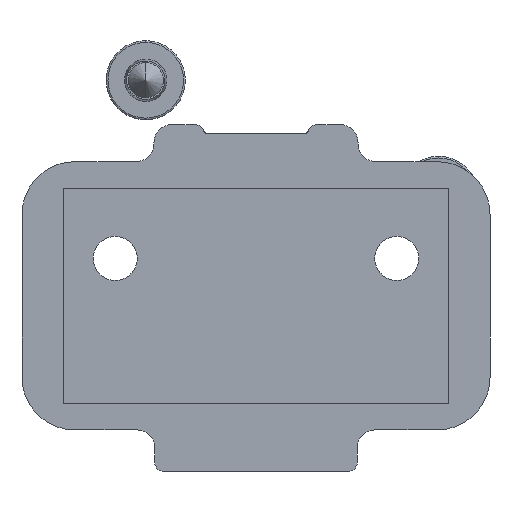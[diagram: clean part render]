
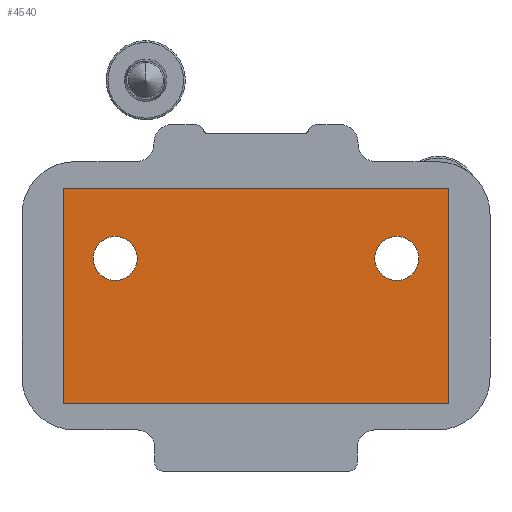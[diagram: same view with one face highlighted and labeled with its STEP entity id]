
A CAD part, front view. The second image highlights one B-rep face of the part: STEP entity #4540.
In plain terms, the highlighted planar face has unit normal (0, -1, 0).
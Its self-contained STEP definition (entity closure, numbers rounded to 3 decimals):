
#23 = EDGE_CURVE ( 'NONE', #2934, #252, #3937, .T. ) ;
#125 = AXIS2_PLACEMENT_3D ( 'NONE', #6518, #3868, #6409 ) ;
#166 = VERTEX_POINT ( 'NONE', #3570 ) ;
#212 = CARTESIAN_POINT ( 'NONE',  ( -21.9, -0.15, 12.501 ) ) ;
#226 = VERTEX_POINT ( 'NONE', #5920 ) ;
#252 = VERTEX_POINT ( 'NONE', #6392 ) ;
#309 = DIRECTION ( 'NONE',  ( -1., 0., 0. ) ) ;
#515 = EDGE_CURVE ( 'NONE', #5916, #4390, #1299, .T. ) ;
#644 = ORIENTED_EDGE ( 'NONE', *, *, #5589, .F. ) ;
#667 = LINE ( 'NONE', #2761, #1884 ) ;
#848 = CARTESIAN_POINT ( 'NONE',  ( 22.5, -0.15, 12.501 ) ) ;
#886 = DIRECTION ( 'NONE',  ( 0., -1., 0. ) ) ;
#916 = PLANE ( 'NONE',  #125 ) ;
#1152 = DIRECTION ( 'NONE',  ( 0., -1., 0. ) ) ;
#1299 = LINE ( 'NONE', #2316, #3008 ) ;
#1399 = EDGE_LOOP ( 'NONE', ( #2393, #5750 ) ) ;
#1884 = VECTOR ( 'NONE', #6208, 1000. ) ;
#2316 = CARTESIAN_POINT ( 'NONE',  ( -21.9, -0.15, 14.571 ) ) ;
#2334 = CIRCLE ( 'NONE', #2577, 2.5 ) ;
#2393 = ORIENTED_EDGE ( 'NONE', *, *, #4006, .F. ) ;
#2416 = CARTESIAN_POINT ( 'NONE',  ( -21.9, -0.15, 37.001 ) ) ;
#2577 = AXIS2_PLACEMENT_3D ( 'NONE', #4960, #7201, #6065 ) ;
#2634 = EDGE_CURVE ( 'NONE', #2946, #226, #2334, .T. ) ;
#2733 = FACE_BOUND ( 'NONE', #4919, .T. ) ;
#2761 = CARTESIAN_POINT ( 'NONE',  ( 18.9, -0.15, 37.001 ) ) ;
#2786 = CARTESIAN_POINT ( 'NONE',  ( -18.5, -0.15, 29. ) ) ;
#2804 = EDGE_LOOP ( 'NONE', ( #4425, #4800, #3040, #644 ) ) ;
#2806 = CIRCLE ( 'NONE', #5021, 2.5 ) ;
#2934 = VERTEX_POINT ( 'NONE', #6015 ) ;
#2946 = VERTEX_POINT ( 'NONE', #3300 ) ;
#3008 = VECTOR ( 'NONE', #6788, 1000. ) ;
#3040 = ORIENTED_EDGE ( 'NONE', *, *, #515, .F. ) ;
#3046 = AXIS2_PLACEMENT_3D ( 'NONE', #7021, #5289, #309 ) ;
#3132 = ORIENTED_EDGE ( 'NONE', *, *, #6785, .F. ) ;
#3276 = VECTOR ( 'NONE', #3587, 1000. ) ;
#3300 = CARTESIAN_POINT ( 'NONE',  ( 18.5, -0.15, 29. ) ) ;
#3353 = CARTESIAN_POINT ( 'NONE',  ( 21.9, -0.15, 46.271 ) ) ;
#3570 = CARTESIAN_POINT ( 'NONE',  ( -13.5, -0.15, 29. ) ) ;
#3587 = DIRECTION ( 'NONE',  ( -1., 0., 0. ) ) ;
#3868 = DIRECTION ( 'NONE',  ( 0., 1., 0. ) ) ;
#3937 = LINE ( 'NONE', #3353, #6046 ) ;
#4006 = EDGE_CURVE ( 'NONE', #6558, #166, #2806, .T. ) ;
#4172 = ORIENTED_EDGE ( 'NONE', *, *, #2634, .F. ) ;
#4216 = FACE_OUTER_BOUND ( 'NONE', #2804, .T. ) ;
#4390 = VERTEX_POINT ( 'NONE', #2416 ) ;
#4425 = ORIENTED_EDGE ( 'NONE', *, *, #23, .T. ) ;
#4448 = CARTESIAN_POINT ( 'NONE',  ( -16., -0.15, 29. ) ) ;
#4540 = ADVANCED_FACE ( 'NONE', ( #4216, #7240, #2733 ), #916, .F. ) ;
#4730 = EDGE_CURVE ( 'NONE', #166, #6558, #6792, .T. ) ;
#4800 = ORIENTED_EDGE ( 'NONE', *, *, #5034, .T. ) ;
#4850 = CIRCLE ( 'NONE', #6721, 2.5 ) ;
#4919 = EDGE_LOOP ( 'NONE', ( #4172, #3132 ) ) ;
#4929 = DIRECTION ( 'NONE',  ( 0., 0., 1. ) ) ;
#4960 = CARTESIAN_POINT ( 'NONE',  ( 16., -0.15, 29. ) ) ;
#5021 = AXIS2_PLACEMENT_3D ( 'NONE', #4448, #1152, #5652 ) ;
#5034 = EDGE_CURVE ( 'NONE', #252, #4390, #667, .T. ) ;
#5289 = DIRECTION ( 'NONE',  ( 0., -1., 0. ) ) ;
#5420 = DIRECTION ( 'NONE',  ( -1., 0., 0. ) ) ;
#5589 = EDGE_CURVE ( 'NONE', #2934, #5916, #5757, .T. ) ;
#5652 = DIRECTION ( 'NONE',  ( -1., 0., 0. ) ) ;
#5750 = ORIENTED_EDGE ( 'NONE', *, *, #4730, .F. ) ;
#5757 = LINE ( 'NONE', #848, #3276 ) ;
#5906 = CARTESIAN_POINT ( 'NONE',  ( 16., -0.15, 29. ) ) ;
#5916 = VERTEX_POINT ( 'NONE', #212 ) ;
#5920 = CARTESIAN_POINT ( 'NONE',  ( 13.5, -0.15, 29. ) ) ;
#6015 = CARTESIAN_POINT ( 'NONE',  ( 21.9, -0.15, 12.501 ) ) ;
#6046 = VECTOR ( 'NONE', #4929, 1000. ) ;
#6065 = DIRECTION ( 'NONE',  ( -1., 0., 0. ) ) ;
#6208 = DIRECTION ( 'NONE',  ( -1., 0., 0. ) ) ;
#6392 = CARTESIAN_POINT ( 'NONE',  ( 21.9, -0.15, 37.001 ) ) ;
#6409 = DIRECTION ( 'NONE',  ( 0., 0., -1. ) ) ;
#6518 = CARTESIAN_POINT ( 'NONE',  ( -15.762, -0.15, 20.238 ) ) ;
#6558 = VERTEX_POINT ( 'NONE', #2786 ) ;
#6721 = AXIS2_PLACEMENT_3D ( 'NONE', #5906, #886, #5420 ) ;
#6785 = EDGE_CURVE ( 'NONE', #226, #2946, #4850, .T. ) ;
#6788 = DIRECTION ( 'NONE',  ( 0., 0., 1. ) ) ;
#6792 = CIRCLE ( 'NONE', #3046, 2.5 ) ;
#7021 = CARTESIAN_POINT ( 'NONE',  ( -16., -0.15, 29. ) ) ;
#7201 = DIRECTION ( 'NONE',  ( 0., -1., 0. ) ) ;
#7240 = FACE_BOUND ( 'NONE', #1399, .T. ) ;
